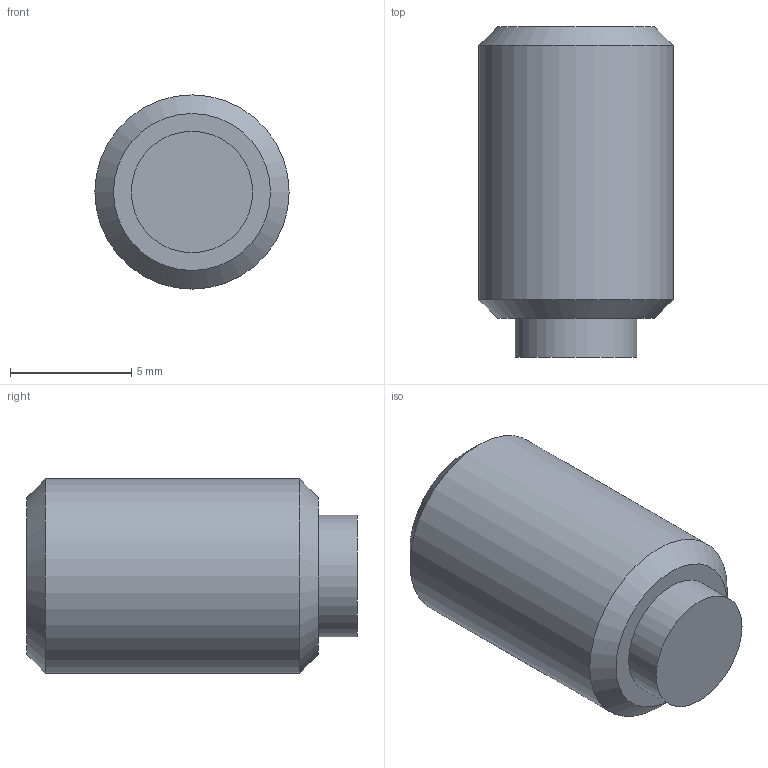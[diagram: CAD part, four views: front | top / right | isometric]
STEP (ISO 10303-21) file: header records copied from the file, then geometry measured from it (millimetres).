
FILE_DESCRIPTION( ( 'STEP AP203' ), '1' );
FILE_NAME( 'C:/Temp/Ganter_Step_05_03_2020/data/3_2/gn913_3/Grub screw GN 913.3-M8-12-KU.stp', '2020-03-13T05:35:37', ( 'License CC BY-ND 4.0' ), ( 'CADENAS' ), ' ', 'PARTsolutions', ' ' );
FILE_SCHEMA( ( 'CONFIG_CONTROL_DESIGN' ) );
Length unit declared in the file: millimetre
Products named in the file (1): _Grub screw GN 913.3-M8-12-KU
Bounding box: 8 x 13.6 x 8 mm (x, y, z)
Volume: 551.5 mm3; surface area: 472.4 mm2
Topology: 1 solids, 1 shells, 14 faces, 28 edges, 18 vertices
Faces by surface type: plane 10, cylinder 2, cone 2
Full cylindrical faces by diameter (mm): 5 x1, 8 x1
Entity records: 386 total; most frequent: DIRECTION 60, CARTESIAN_POINT 57, ORIENTED_EDGE 48, EDGE_CURVE 24, AXIS2_PLACEMENT_3D 21, EDGE_LOOP 20, VERTEX_POINT 18, LINE 18
